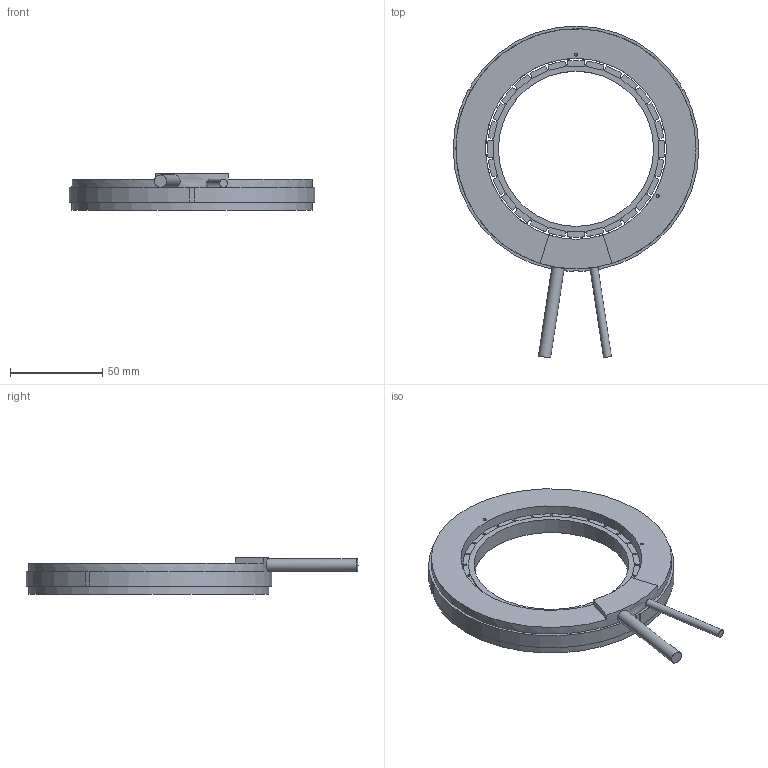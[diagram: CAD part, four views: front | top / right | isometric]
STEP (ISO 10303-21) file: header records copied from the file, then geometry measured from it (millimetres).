
FILE_DESCRIPTION(/* description */ ('Unknown'),/* implementation_level */ '2;1');
FILE_NAME(/* name */ 'Torque_QTR_133_17_N_Kit_CAD_180906',/* time_stamp */ '2018-09-06T16:55:33+02:00',/* author */ ('Unknown'),/* organization */ ('Unknown'),/* preprocessor_version */ 'ST-DEVELOPER v16.7',/* originating_system */ 'DEX',/* authorisation */ $);
FILE_SCHEMA (('AUTOMOTIVE_DESIGN {1 0 10303 214 3 1 1}'));
Length unit declared in the file: millimetre
Products named in the file (1): Torque_QTR_133_17_N_Kit_CAD_180906
Bounding box: 132.99 x 179.72 x 20 mm (x, y, z)
Volume: 119794.4 mm3; surface area: 35953.2 mm2
Topology: 2 solids, 2 shells, 369 faces, 976 edges, 614 vertices
Faces by surface type: plane 300, cylinder 67, cone 2
Full cylindrical faces by diameter (mm): 1.65 x2, 4.3 x1, 6.7 x1, 84 x1, 97.9 x1, 130 x2
Entity records: 11109 total; most frequent: CARTESIAN_POINT 1956, ORIENTED_EDGE 1916, DIRECTION 1830, EDGE_CURVE 958, LINE 822, VECTOR 822, VERTEX_POINT 608, AXIS2_PLACEMENT_3D 504
